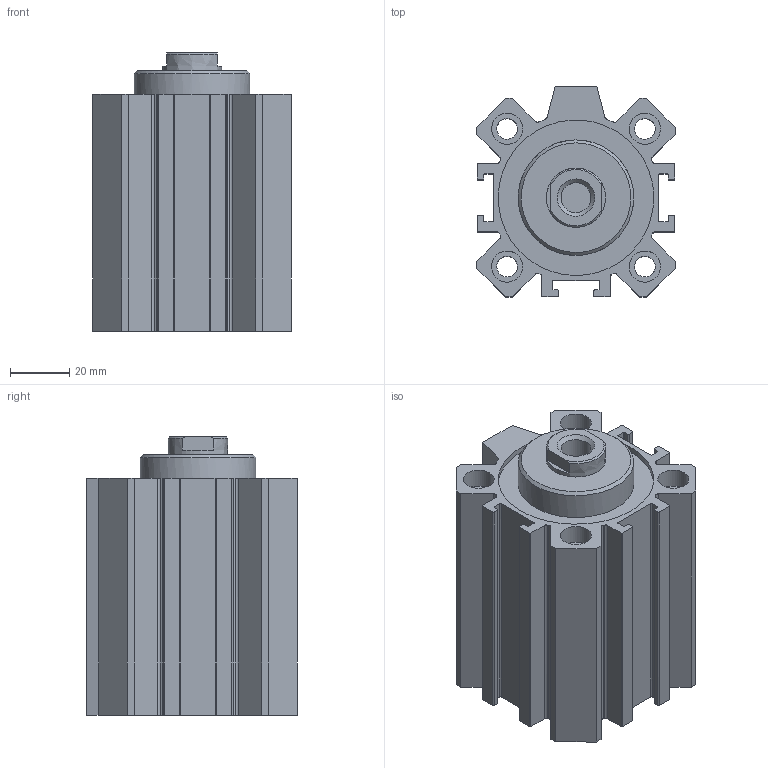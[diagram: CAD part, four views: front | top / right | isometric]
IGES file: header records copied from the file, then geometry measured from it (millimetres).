
Global section: file name: 1511_50_0040; native system: Autodesk Inventor 2014; preprocessor: unknown; author: A. Manieri; date: 20160824.134034; units: millimetre
Bounding box: 67 x 71 x 94 mm (x, y, z)
Volume: 219838.2 mm3; surface area: 71565.4 mm2
Topology: 2 solids, 2 shells, 165 faces, 443 edges, 300 vertices
Faces by surface type: bspline 165
